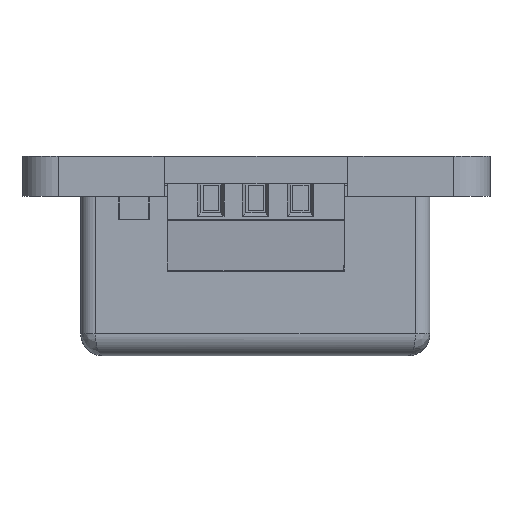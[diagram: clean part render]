
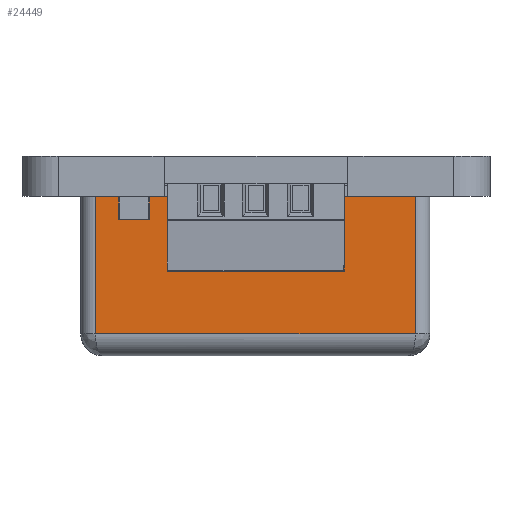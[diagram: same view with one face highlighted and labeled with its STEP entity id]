
A CAD part, front view. The second image highlights one B-rep face of the part: STEP entity #24449.
In plain terms, the highlighted planar face has unit normal (0, -1, 0) as drawn and (1, 0, 0) by its records, which use the part's own axes.
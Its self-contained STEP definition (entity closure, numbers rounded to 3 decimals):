
#23183=DIRECTION('',(0.,1.,0.));
#23184=VECTOR('',#23183,43.5);
#23185=CARTESIAN_POINT('',(34.75,-21.75,0.));
#23186=LINE('',#23185,#23184);
#23485=DIRECTION('',(0.,0.,-1.));
#23486=VECTOR('',#23485,18.7);
#23487=CARTESIAN_POINT('',(34.75,-21.75,18.7));
#23488=LINE('',#23487,#23486);
#23521=DIRECTION('',(0.,-1.,0.));
#23522=VECTOR('',#23521,43.5);
#23523=CARTESIAN_POINT('',(34.75,21.75,18.7));
#23524=LINE('',#23523,#23522);
#23556=DIRECTION('',(0.,0.,1.));
#23557=VECTOR('',#23556,18.7);
#23558=CARTESIAN_POINT('',(34.75,21.75,0.));
#23559=LINE('',#23558,#23557);
#24015=CARTESIAN_POINT('',(34.75,-21.75,0.));
#24016=VERTEX_POINT('',#24015);
#24017=CARTESIAN_POINT('',(34.75,21.75,0.));
#24018=VERTEX_POINT('',#24017);
#24086=CARTESIAN_POINT('',(34.75,-21.75,18.7));
#24087=VERTEX_POINT('',#24086);
#24088=CARTESIAN_POINT('',(34.75,21.75,18.7));
#24089=VERTEX_POINT('',#24088);
#24437=CARTESIAN_POINT('',(34.75,-21.75,0.));
#24438=DIRECTION('',(1.,0.,0.));
#24439=DIRECTION('',(0.,1.,0.));
#24440=AXIS2_PLACEMENT_3D('',#24437,#24438,#24439);
#24441=PLANE('',#24440);
#24442=ORIENTED_EDGE('',*,*,#24428,.F.);
#24444=ORIENTED_EDGE('',*,*,#24443,.F.);
#24445=ORIENTED_EDGE('',*,*,#24155,.F.);
#24446=ORIENTED_EDGE('',*,*,#24364,.F.);
#24447=EDGE_LOOP('',(#24442,#24444,#24445,#24446));
#24448=FACE_OUTER_BOUND('',#24447,.F.);
#24155=EDGE_CURVE('',#24016,#24018,#23186,.T.);
#24364=EDGE_CURVE('',#24087,#24016,#23488,.T.);
#24428=EDGE_CURVE('',#24089,#24087,#23524,.T.);
#24443=EDGE_CURVE('',#24018,#24089,#23559,.T.);
#24449=ADVANCED_FACE('',(#24448),#24441,.T.);
